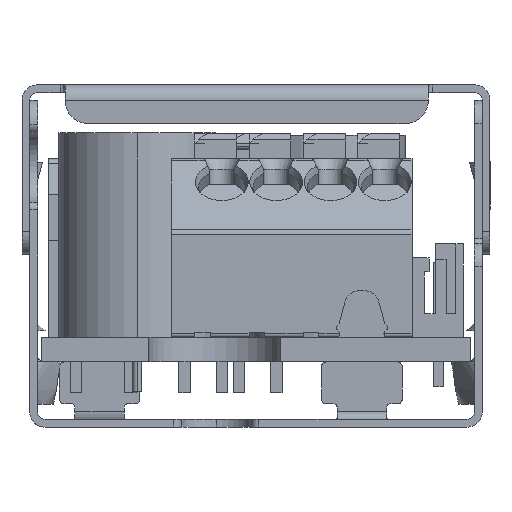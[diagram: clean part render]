
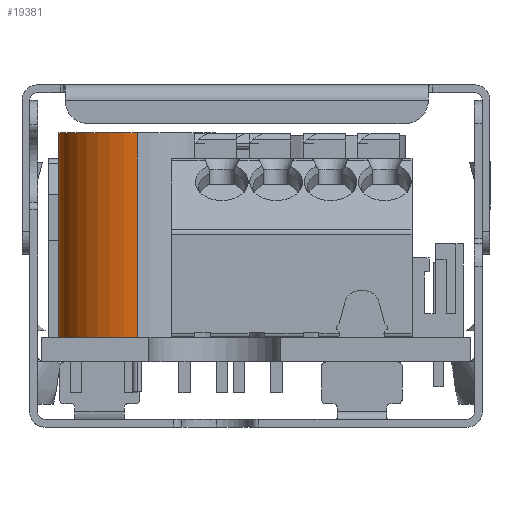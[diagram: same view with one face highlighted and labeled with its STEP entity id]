
A CAD part, left-side view. The second image highlights one B-rep face of the part: STEP entity #19381.
In plain terms, the highlighted cylindrical face has radius 5.05 mm (diameter 10.1 mm), a partial arc.
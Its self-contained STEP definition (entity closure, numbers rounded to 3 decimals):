
#138 = FACE_OUTER_BOUND ( 'NONE', #668, .T. ) ;
#668 = EDGE_LOOP ( 'NONE', ( #4636, #1080, #26021, #13998 ) ) ;
#786 = CIRCLE ( 'NONE', #27891, 5.05 ) ;
#1080 = ORIENTED_EDGE ( 'NONE', *, *, #11525, .T. ) ;
#1414 = LINE ( 'NONE', #23302, #3094 ) ;
#1475 = VERTEX_POINT ( 'NONE', #23257 ) ;
#2876 = CARTESIAN_POINT ( 'NONE',  ( -5.05, 0., 13.15 ) ) ;
#3094 = VECTOR ( 'NONE', #8777, 1000. ) ;
#3540 = DIRECTION ( 'NONE',  ( 1., 0., 0. ) ) ;
#4636 = ORIENTED_EDGE ( 'NONE', *, *, #13220, .F. ) ;
#4856 = LINE ( 'NONE', #2876, #23940 ) ;
#5523 = DIRECTION ( 'NONE',  ( 0., 0., 1. ) ) ;
#8777 = DIRECTION ( 'NONE',  ( 0., 0., -1. ) ) ;
#9276 = EDGE_CURVE ( 'NONE', #14036, #1475, #4856, .T. ) ;
#9668 = CARTESIAN_POINT ( 'NONE',  ( 5.05, 0., 0. ) ) ;
#10133 = CARTESIAN_POINT ( 'NONE',  ( 0., 0., 13.15 ) ) ;
#11509 = CARTESIAN_POINT ( 'NONE',  ( 0., 0., 13.15 ) ) ;
#11525 = EDGE_CURVE ( 'NONE', #13338, #12038, #1414, .T. ) ;
#12038 = VERTEX_POINT ( 'NONE', #9668 ) ;
#13220 = EDGE_CURVE ( 'NONE', #13338, #14036, #30360, .T. ) ;
#13338 = VERTEX_POINT ( 'NONE', #14187 ) ;
#13998 = ORIENTED_EDGE ( 'NONE', *, *, #9276, .F. ) ;
#14036 = VERTEX_POINT ( 'NONE', #21145 ) ;
#14187 = CARTESIAN_POINT ( 'NONE',  ( 5.05, 0., 13.15 ) ) ;
#14847 = CYLINDRICAL_SURFACE ( 'NONE', #29953, 5.05 ) ;
#14971 = DIRECTION ( 'NONE',  ( 0., 0., -1. ) ) ;
#15625 = CARTESIAN_POINT ( 'NONE',  ( 0., 0., 0. ) ) ;
#18459 = EDGE_CURVE ( 'NONE', #12038, #1475, #786, .T. ) ;
#19381 = ADVANCED_FACE ( 'NONE', ( #138 ), #14847, .T. ) ;
#19598 = DIRECTION ( 'NONE',  ( -1., 0., 0. ) ) ;
#21145 = CARTESIAN_POINT ( 'NONE',  ( -5.05, 0., 13.15 ) ) ;
#22070 = DIRECTION ( 'NONE',  ( 0., 0., 1. ) ) ;
#22525 = AXIS2_PLACEMENT_3D ( 'NONE', #11509, #22070, #26796 ) ;
#23257 = CARTESIAN_POINT ( 'NONE',  ( -5.05, 0., 0. ) ) ;
#23302 = CARTESIAN_POINT ( 'NONE',  ( 5.05, 0., 13.15 ) ) ;
#23940 = VECTOR ( 'NONE', #14971, 1000. ) ;
#26021 = ORIENTED_EDGE ( 'NONE', *, *, #18459, .T. ) ;
#26796 = DIRECTION ( 'NONE',  ( 1., 0., 0. ) ) ;
#27891 = AXIS2_PLACEMENT_3D ( 'NONE', #15625, #5523, #3540 ) ;
#29953 = AXIS2_PLACEMENT_3D ( 'NONE', #10133, #32023, #19598 ) ;
#30360 = CIRCLE ( 'NONE', #22525, 5.05 ) ;
#32023 = DIRECTION ( 'NONE',  ( 0., 0., -1. ) ) ;
